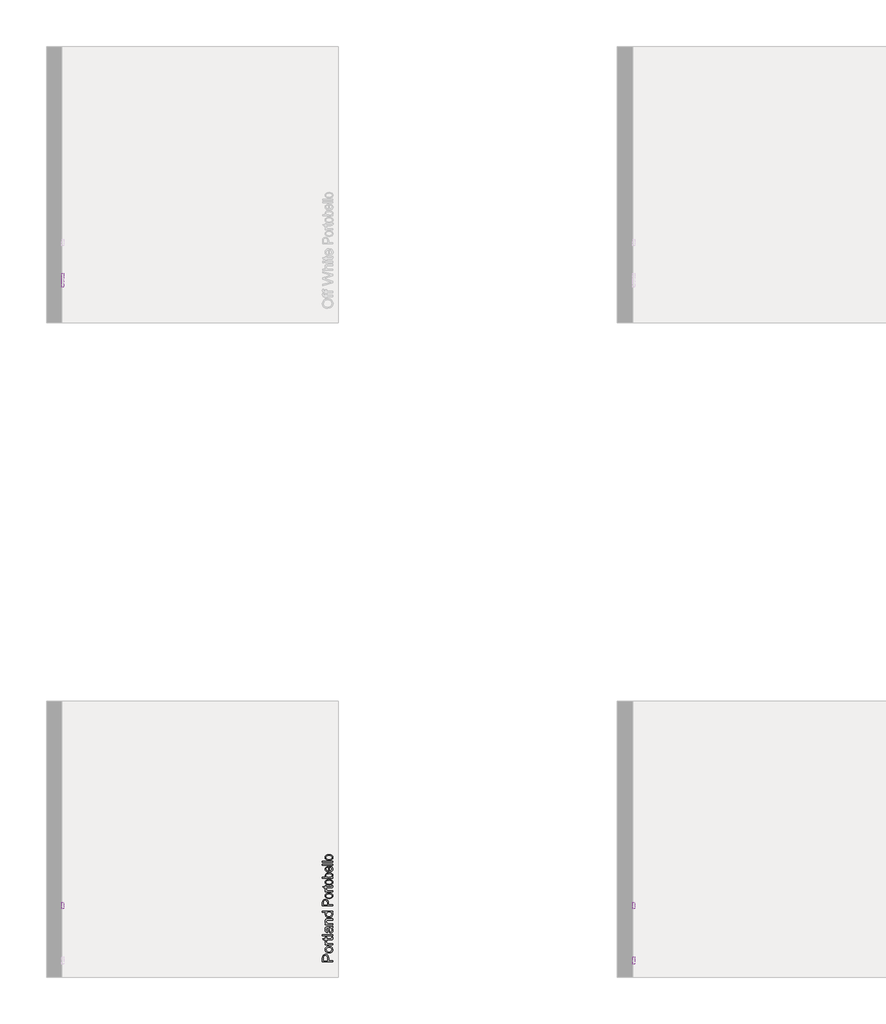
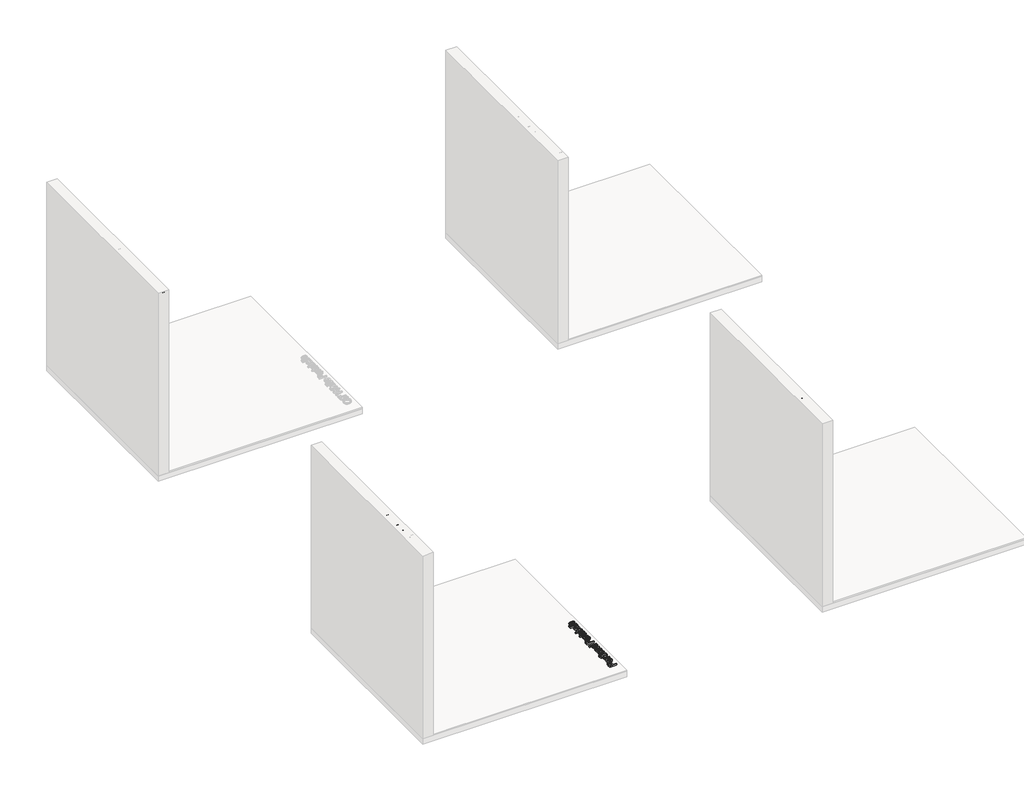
# One storey, part 9 of 14: 6 proxies.
"""IFC4 building model written with IfcOpenShell, lengths in millimetres."""

from ifc_helpers import new_model, si_unit, frame, origin, place, context, project, spatial, polyline, outline, extrude, element, save

model = new_model("IFC4")

# Units and contexts
model_context = context("Model", 3, world=origin())
ifc_project = project(units=[si_unit("LENGTHUNIT", "METRE", prefix="MILLI")], contexts=[model_context])

# Site, building, storey
site = spatial("IfcSite", under=ifc_project)
building = spatial("IfcBuilding", under=site)
storey = spatial("IfcBuildingStorey", under=building, Name="PORTOBELLO - SHOWROOM", Elevation=0.0)

# Proxies
placement = place(None, origin())
element("IfcBuildingElementProxy", 1, Name="10mm Arial", ObjectType="10mm Arial", at=placement, inside=storey, context=model_context, shape_type="SweptSolid", body=[
    extrude(outline(polyline([(186762.0184229, 10125.2075805), (186661.5621127, 10125.2075805), (186661.5621127, 10162.4372384), (186662.5186059, 10177.4468238), (186667.2152327, 10189.6482433), (186676.9273174, 10197.5577062), (186690.6247904, 10200.5498131), (186702.4644592, 10198.5295278), (186712.3298281, 10192.468672), (186718.9884922, 10181.1348408), (186721.2080469, 10163.2956298), (186721.2080469, 10137.7646193), (186762.0184229, 10137.7646193), (186762.0184229, 10125.2075805)]), holes=[polyline([(186708.6510081, 10137.7646193), (186708.6510081, 10164.0313938), (186704.0402204, 10182.5235954), (186698.4913337, 10186.6254796), (186691.0662487, 10187.9927744), (186680.667451, 10184.7676755), (186674.9775428, 10176.2941269), (186674.1191515, 10163.7370882), (186674.1191515, 10137.7646193), (186708.6510081, 10137.7646193)])]), frame((0.0, 0.0, 17.0), z_axis=(0.0, 0.0, 1.0), x_axis=(1.0, 0.0, 0.0)), (0.0, 0.0, 1.0), 20.0),
    extrude(outline(polyline([(186725.1321215, 10213.1068519), (186707.345027, 10215.8230473), (186694.8431706, 10223.9716335), (186688.7179353, 10234.0393374), (186686.6761903, 10246.0936041), (186689.1624594, 10259.2852394), (186696.6212669, 10269.8219928), (186708.4640014, 10276.7289773), (186724.1020519, 10279.0313054), (186746.4447518, 10274.960078), (186759.0876297, 10263.1020151), (186763.5880527, 10246.0936041), (186761.1109806, 10232.7425534), (186753.6797643, 10222.2180627), (186741.5887094, 10215.3846546), (186725.1321215, 10213.1068519)]), holes=[polyline([(186725.107596, 10225.6638907), (186736.472084, 10227.1170246), (186744.5685536, 10231.4764262), (186749.4153989, 10238.0369884), (186751.031014, 10246.0936041), (186749.4062018, 10254.1134316), (186744.5317654, 10260.6617312), (186736.3279969, 10265.0211328), (186724.7151886, 10266.4742667), (186713.6817944, 10265.0119357), (186705.6956894, 10260.624943), (186700.8488441, 10254.0674464), (186699.233229, 10246.0936041), (186700.8427128, 10238.0369884), (186705.671164, 10231.4764262), (186713.7492394, 10227.1170246), (186725.107596, 10225.6638907)])]), frame((0.0, 0.0, 17.0), z_axis=(0.0, 0.0, 1.0), x_axis=(1.0, 0.0, 0.0)), (0.0, 0.0, 1.0), 20.0),
    extrude(outline(polyline([(186762.0184229, 10293.1579741), (186688.2458201, 10293.1579741), (186688.2458201, 10304.145383), (186699.1596526, 10304.145383), (186689.1042114, 10311.9444813), (186686.6761903, 10319.7926305), (186690.551214, 10332.3987202), (186701.808403, 10328.2048655), (186699.233229, 10319.3756976), (186701.7103011, 10312.2755751), (186708.5774317, 10307.7506265), (186723.2436606, 10305.7150128), (186762.0184229, 10305.7150128), (186762.0184229, 10293.1579741)])), frame((0.0, 0.0, 17.0), z_axis=(0.0, 0.0, 1.0), x_axis=(1.0, 0.0, 0.0)), (0.0, 0.0, 1.0), 20.0),
    extrude(outline(polyline([(186751.5460488, 10366.9305768), (186762.3863049, 10368.5002067), (186763.5880527, 10359.1069531), (186761.5033881, 10348.585528), (186756.0342091, 10343.3370782), (186741.7849132, 10341.8164993), (186700.8028589, 10341.8164993), (186700.8028589, 10332.3987202), (186690.551214, 10332.3987202), (186688.2458201, 10332.3987202), (186688.2458201, 10341.8164993), (186670.3177042, 10341.8164993), (186662.9355389, 10354.3735381), (186688.2458201, 10354.3735381), (186688.2458201, 10366.9305768), (186700.8028589, 10366.9305768), (186700.8028589, 10354.3735381), (186741.4170312, 10354.3735381), (186747.8917543, 10355.0357256), (186750.1848854, 10357.181704), (186751.031014, 10361.4613978), (186751.5460488, 10366.9305768)])), frame((0.0, 0.0, 17.0), z_axis=(0.0, 0.0, 1.0), x_axis=(1.0, 0.0, 0.0)), (0.0, 0.0, 1.0), 20.0),
    extrude(outline(polyline([(186762.0184229, 10379.4876156), (186661.5621127, 10379.4876156), (186661.5621127, 10392.0446544), (186762.0184229, 10392.0446544), (186762.0184229, 10379.4876156)])), frame((0.0, 0.0, 17.0), z_axis=(0.0, 0.0, 1.0), x_axis=(1.0, 0.0, 0.0)), (0.0, 0.0, 1.0), 20.0),
    extrude(outline(polyline([(186752.6006438, 10457.9691079), (186761.1109806, 10445.7922139), (186763.5880527, 10432.3399956), (186762.0981307, 10421.8461617), (186757.6283644, 10414.1053113), (186750.8409416, 10409.3320425), (186742.3980498, 10407.7409528), (186732.4652359, 10410.1444485), (186725.2547488, 10416.4597561), (186721.1344705, 10425.2521358), (186719.2460096, 10436.1169174), (186714.9295275, 10457.8955315), (186712.1336243, 10457.9691079), (186702.8629981, 10454.5110171), (186699.233229, 10440.6296032), (186701.6489875, 10427.9254116), (186710.220638, 10421.8676214), (186708.6510081, 10409.3105827), (186696.3882749, 10414.7429735), (186689.2023133, 10425.6813315), (186686.6761903, 10442.248284), (186688.9080077, 10457.4663358), (186694.5120768, 10466.0625118), (186703.0346763, 10469.91301), (186714.0220852, 10470.5261467), (186729.6448073, 10470.5261467), (186751.4602096, 10471.1638088), (186762.0184229, 10473.6654064), (186762.0184229, 10461.1083676), (186752.6006438, 10457.9691079)]), holes=[polyline([(186727.4865663, 10457.9691079), (186731.3370645, 10437.7110727), (186733.3726782, 10426.9076048), (186736.6836162, 10422.0147742), (186741.515133, 10420.2979916), (186748.3086872, 10424.0381252), (186751.031014, 10435.0132714), (186748.0266443, 10447.717463), (186740.7548436, 10455.9089687), (186731.0427589, 10457.8955315), (186727.4865663, 10457.9691079)])]), frame((0.0, 0.0, 17.0), z_axis=(0.0, 0.0, 1.0), x_axis=(1.0, 0.0, 0.0)), (0.0, 0.0, 1.0), 20.0),
    extrude(outline(polyline([(186762.0184229, 10487.792075), (186688.2458201, 10487.792075), (186688.2458201, 10500.3491137), (186698.546516, 10500.3491137), (186689.6437717, 10509.9508338), (186686.6761903, 10523.0596956), (186689.0674232, 10534.9177586), (186695.3459426, 10543.0111624), (186704.5797807, 10546.7758215), (186716.7198865, 10547.4380091), (186762.0184229, 10547.4380091), (186762.0184229, 10534.8809704), (186718.4121437, 10534.8809704), (186707.3021075, 10533.4339678), (186701.4282583, 10528.3204081), (186699.233229, 10519.6997067), (186704.1628478, 10506.0758101), (186711.3058898, 10501.7807878), (186722.8757786, 10500.3491137), (186762.0184229, 10500.3491137), (186762.0184229, 10487.792075)])), frame((0.0, 0.0, 17.0), z_axis=(0.0, 0.0, 1.0), x_axis=(1.0, 0.0, 0.0)), (0.0, 0.0, 1.0), 20.0),
    extrude(outline(polyline([(186762.0184229, 10610.223203), (186750.1726226, 10610.223203), (186760.2341952, 10601.9152012), (186763.5880527, 10590.4311516), (186758.7320104, 10574.882006), (186745.1816902, 10563.894597), (186725.2056979, 10559.9950479), (186705.2174428, 10563.5880287), (186691.4586562, 10574.3547084), (186686.6761903, 10590.3821007), (186690.0974928, 10601.9581208), (186698.9879744, 10610.223203), (186661.5621127, 10610.223203), (186661.5621127, 10622.7802417), (186762.0184229, 10622.7802417), (186762.0184229, 10610.223203)]), holes=[polyline([(186725.156647, 10572.5520867), (186736.5150036, 10573.9684323), (186744.593079, 10578.2174694), (186749.4215302, 10584.3917555), (186751.031014, 10591.5838485), (186749.4951066, 10598.7728759), (186744.8873846, 10604.7908122), (186737.1220089, 10608.8651053), (186726.1131402, 10610.223203), (186714.0772675, 10608.8405798), (186705.7324776, 10604.6927103), (186700.8580412, 10598.5214898), (186699.233229, 10591.0688138), (186700.7936618, 10583.8031443), (186705.4749602, 10577.8495874), (186713.5162475, 10573.8764618), (186725.156647, 10572.5520867)])]), frame((0.0, 0.0, 17.0), z_axis=(0.0, 0.0, 1.0), x_axis=(1.0, 0.0, 0.0)), (0.0, 0.0, 1.0), 20.0),
])
element("IfcBuildingElementProxy", 2, Name="10mm Arial", ObjectType="10mm Arial", at=placement, inside=storey, context=model_context, shape_type="SweptSolid", body=[
    extrude(outline(polyline([(10102.0552811, 2558.2261649), (10102.0552811, 2658.6824751), (10139.2849391, 2658.6824751), (10154.2945245, 2657.7259819), (10166.495944, 2653.0293551), (10174.4054069, 2643.3172704), (10177.3975138, 2629.6197975), (10175.3772285, 2617.7801286), (10169.3163726, 2607.9147598), (10157.9825415, 2601.2560956), (10140.1433304, 2599.0365409), (10114.6123199, 2599.0365409), (10114.6123199, 2558.2261649), (10102.0552811, 2558.2261649)]), holes=[polyline([(10114.6123199, 2611.5935797), (10140.8790944, 2611.5935797), (10159.371296, 2616.2043674), (10163.4731802, 2621.7532541), (10164.840475, 2629.1783391), (10161.6153762, 2639.5771368), (10153.1418275, 2645.267045), (10140.5847888, 2646.1254363), (10114.6123199, 2646.1254363), (10114.6123199, 2611.5935797)])]), frame((189692.8293498, 0.0, 0.0), z_axis=(1.0, 0.0, 0.0), x_axis=(0.0, 1.0, 0.0)), (0.0, 0.0, 1.0), 20.0),
    extrude(outline(polyline([(10189.9545525, 2595.1124663), (10192.6707479, 2612.8995608), (10200.8193341, 2625.4014173), (10210.887038, 2631.5266525), (10222.9413048, 2633.5683975), (10236.13294, 2631.0821284), (10246.6696934, 2623.6233209), (10253.5766779, 2611.7805864), (10255.8790061, 2596.1425359), (10251.8077786, 2573.7998361), (10239.9497157, 2561.1569582), (10222.9413048, 2556.6565351), (10209.590254, 2559.1336072), (10199.0657633, 2566.5648235), (10192.2323552, 2578.6558784), (10189.9545525, 2595.1124663)]), holes=[polyline([(10202.5115913, 2595.1369918), (10203.9647252, 2583.7725038), (10208.3241268, 2575.6760342), (10214.8846891, 2570.829189), (10222.9413048, 2569.2135739), (10230.9611323, 2570.838386), (10237.5094318, 2575.7128224), (10241.8688334, 2583.9165909), (10243.3219673, 2595.5293992), (10241.8596364, 2606.5627934), (10237.4726436, 2614.5488984), (10230.915147, 2619.3957437), (10222.9413048, 2621.0113588), (10214.8846891, 2619.4018751), (10208.3241268, 2614.5734239), (10203.9647252, 2606.4953484), (10202.5115913, 2595.1369918)])]), frame((189692.8293498, 0.0, 0.0), z_axis=(1.0, 0.0, 0.0), x_axis=(0.0, 1.0, 0.0)), (0.0, 0.0, 1.0), 20.0),
    extrude(outline(polyline([(10270.0056747, 2558.2261649), (10270.0056747, 2631.9987677), (10280.9930836, 2631.9987677), (10280.9930836, 2621.0849352), (10288.7921819, 2631.1403764), (10296.6403311, 2633.5683975), (10309.2464208, 2629.6933739), (10305.0525661, 2618.4361848), (10296.2233982, 2621.0113588), (10289.1232757, 2618.5342867), (10284.5983271, 2611.6671561), (10282.5627134, 2597.0009272), (10282.5627134, 2558.2261649), (10270.0056747, 2558.2261649)])), frame((189692.8293498, 0.0, 0.0), z_axis=(1.0, 0.0, 0.0), x_axis=(0.0, 1.0, 0.0)), (0.0, 0.0, 1.0), 20.0),
    extrude(outline(polyline([(10343.7782774, 2568.6985391), (10345.3479073, 2557.8582829), (10335.9546537, 2556.6565351), (10325.4332286, 2558.7411997), (10320.1847788, 2564.2103787), (10318.6641999, 2578.4596747), (10318.6641999, 2619.4417289), (10309.2464208, 2619.4417289), (10309.2464208, 2629.6933739), (10309.2464208, 2631.9987677), (10318.6641999, 2631.9987677), (10318.6641999, 2649.9268836), (10331.2212387, 2657.309049), (10331.2212387, 2631.9987677), (10343.7782774, 2631.9987677), (10343.7782774, 2619.4417289), (10331.2212387, 2619.4417289), (10331.2212387, 2578.8275567), (10331.8834263, 2572.3528336), (10334.0294046, 2570.0597024), (10338.3090984, 2569.2135739), (10343.7782774, 2568.6985391)])), frame((189692.8293498, 0.0, 0.0), z_axis=(1.0, 0.0, 0.0), x_axis=(0.0, 1.0, 0.0)), (0.0, 0.0, 1.0), 20.0),
    extrude(outline(polyline([(189712.8293498, 10368.892355), (189712.8293498, 10356.3353162), (189692.8293498, 10356.3353162), (189692.8293498, 10368.892355), (189712.8293498, 10368.892355)])), frame((0.0, 0.0, 2558.2261649), z_axis=(0.0, 0.0, 1.0), x_axis=(1.0, 0.0, 0.0)), (0.0, 0.0, 1.0), 100.4563101),
    extrude(outline(polyline([(10434.8168085, 2567.643944), (10422.6399145, 2559.1336072), (10409.1876962, 2556.6565351), (10398.6938623, 2558.1464572), (10390.953012, 2562.6162234), (10386.1797431, 2569.4036462), (10384.5886534, 2577.846538), (10386.9921491, 2587.7793519), (10393.3074567, 2594.989839), (10402.0998364, 2599.1101173), (10412.964618, 2600.9985782), (10434.7432321, 2605.3150603), (10434.8168085, 2608.1109635), (10431.3587178, 2617.3815898), (10417.4773038, 2621.0113588), (10404.7731122, 2618.5956003), (10398.7153221, 2610.0239499), (10386.1582833, 2611.5935797), (10391.5906741, 2623.8563129), (10402.5290321, 2631.0422745), (10419.0959846, 2633.5683975), (10434.3140365, 2631.3365801), (10442.9102124, 2625.7325111), (10446.7607106, 2617.2099115), (10447.3738473, 2606.2225026), (10447.3738473, 2590.5997805), (10448.0115094, 2568.7843782), (10450.513107, 2558.2261649), (10437.9560682, 2558.2261649), (10434.8168085, 2567.643944)]), holes=[polyline([(10434.8168085, 2592.7580215), (10414.5587733, 2588.9075233), (10403.7553054, 2586.8719096), (10398.8624749, 2583.5609717), (10397.1456922, 2578.7294548), (10400.8858258, 2571.9359006), (10411.860972, 2569.2135739), (10424.5651636, 2572.2179435), (10432.7566693, 2579.4897443), (10434.7432321, 2589.2018289), (10434.8168085, 2592.7580215)])]), frame((189692.8293498, 0.0, 0.0), z_axis=(1.0, 0.0, 0.0), x_axis=(0.0, 1.0, 0.0)), (0.0, 0.0, 1.0), 20.0),
    extrude(outline(polyline([(10464.6397756, 2558.2261649), (10464.6397756, 2631.9987677), (10477.1968144, 2631.9987677), (10477.1968144, 2621.6980718), (10486.7985344, 2630.6008161), (10499.9073962, 2633.5683975), (10511.7654592, 2631.1771646), (10519.8588631, 2624.8986452), (10523.6235221, 2615.6648071), (10524.2857097, 2603.5247013), (10524.2857097, 2558.2261649), (10511.728671, 2558.2261649), (10511.728671, 2601.8324441), (10510.2816685, 2612.9424804), (10505.1681087, 2618.8163295), (10496.5474073, 2621.0113588), (10482.9235107, 2616.08174), (10478.6284885, 2608.938698), (10477.1968144, 2597.3688092), (10477.1968144, 2558.2261649), (10464.6397756, 2558.2261649)])), frame((189692.8293498, 0.0, 0.0), z_axis=(1.0, 0.0, 0.0), x_axis=(0.0, 1.0, 0.0)), (0.0, 0.0, 1.0), 20.0),
    extrude(outline(polyline([(10587.0709036, 2558.2261649), (10587.0709036, 2570.0719652), (10578.7629019, 2560.0103926), (10567.2788522, 2556.6565351), (10551.7297066, 2561.5125774), (10540.7422977, 2575.0628976), (10536.8427485, 2595.0388899), (10540.4357293, 2615.027145), (10551.2024091, 2628.7859316), (10567.2298013, 2633.5683975), (10578.8058214, 2630.147095), (10587.0709036, 2621.2566134), (10587.0709036, 2658.6824751), (10599.6279424, 2658.6824751), (10599.6279424, 2558.2261649), (10587.0709036, 2558.2261649)]), holes=[polyline([(10549.3997873, 2595.0879409), (10550.816133, 2583.7295843), (10555.06517, 2575.6515088), (10561.2394562, 2570.8230576), (10568.4315492, 2569.2135739), (10575.6205765, 2570.7494812), (10581.6385128, 2575.3572032), (10585.7128059, 2583.122579), (10587.0709036, 2594.1314477), (10585.6882804, 2606.1673203), (10581.5404109, 2614.5121102), (10575.3691905, 2619.3865466), (10567.9165144, 2621.0113588), (10560.650845, 2619.450926), (10554.697288, 2614.7696276), (10550.7241625, 2606.7283403), (10549.3997873, 2595.0879409)])]), frame((189692.8293498, 0.0, 0.0), z_axis=(1.0, 0.0, 0.0), x_axis=(0.0, 1.0, 0.0)), (0.0, 0.0, 1.0), 20.0),
])
element("IfcBuildingElementProxy", 3, Name="10mm Arial", ObjectType="10mm Arial", at=placement, inside=storey, context=model_context, shape_type="SweptSolid", body=[
    extrude(outline(polyline([(16497.3463916, 2607.1299448), (16500.6941178, 2629.343886), (16510.7372962, 2646.1499618), (16526.0718441, 2656.7265691), (16545.2936783, 2660.2521049), (16558.4699851, 2658.596636), (16570.2851285, 2653.630229), (16580.0953151, 2645.702372), (16587.2567512, 2635.1625529), (16591.634547, 2622.519675), (16593.0938122, 2608.2826417), (16591.5579049, 2593.8555362), (16586.9501829, 2581.0348486), (16579.525098, 2570.4766354), (16569.5371018, 2562.8369526), (16557.8231259, 2558.2016395), (16545.2201019, 2556.6565351), (16531.84146, 2558.3641207), (16519.9588716, 2563.4868775), (16510.1732105, 2571.5618873), (16503.0853507, 2582.1262319), (16497.3463916, 2607.1299448)]), holes=[polyline([(16509.9034304, 2607.0073175), (16512.414225, 2591.2926249), (16519.9466088, 2579.318066), (16531.2681772, 2571.7396969), (16545.1465255, 2569.2135739), (16559.2272089, 2571.7642224), (16570.5671714, 2579.4161679), (16578.0443729, 2591.7586088), (16580.5367734, 2608.3807436), (16576.2693423, 2629.1047627), (16563.7981427, 2642.8267611), (16545.3672547, 2647.6950662), (16531.8598541, 2645.3498184), (16520.3758045, 2638.3140753), (16512.5215239, 2625.7968904), (16509.9034304, 2607.0073175)])]), frame((184113.9473279, 0.0, 0.0), z_axis=(1.0, 0.0, 0.0), x_axis=(0.0, 1.0, 0.0)), (0.0, 0.0, 1.0), 20.0),
    extrude(outline(polyline([(16652.7397464, 2558.2261649), (16652.7397464, 2619.4417289), (16641.7523374, 2619.4417289), (16641.7523374, 2631.9987677), (16652.7397464, 2631.9987677), (16652.7397464, 2639.429984), (16654.0641215, 2649.9023581), (16660.4897937, 2657.3826254), (16673.1449344, 2660.2521049), (16684.5983271, 2658.8786788), (16682.7589172, 2647.106455), (16675.5239046, 2647.6950662), (16667.6144417, 2645.6104015), (16665.2967851, 2637.8358287), (16665.2967851, 2631.9987677), (16679.4234537, 2631.9987677), (16679.4234537, 2619.4417289), (16665.2967851, 2619.4417289), (16665.2967851, 2558.2261649), (16652.7397464, 2558.2261649)])), frame((184113.9473279, 0.0, 0.0), z_axis=(1.0, 0.0, 0.0), x_axis=(0.0, 1.0, 0.0)), (0.0, 0.0, 1.0), 20.0),
    extrude(outline(polyline([(16611.9293704, 2558.2261649), (16611.9293704, 2619.4417289), (16600.9419614, 2619.4417289), (16600.9419614, 2631.9987677), (16611.9293704, 2631.9987677), (16611.9293704, 2639.429984), (16613.2537456, 2649.9023581), (16619.6794177, 2657.3826254), (16632.3345584, 2660.2521049), (16643.7879511, 2658.8786788), (16641.9485412, 2647.106455), (16634.7135286, 2647.6950662), (16626.8040657, 2645.6104015), (16624.4864091, 2637.8358287), (16624.4864091, 2631.9987677), (16638.6130778, 2631.9987677), (16638.6130778, 2619.4417289), (16624.4864091, 2619.4417289), (16624.4864091, 2558.2261649), (16611.9293704, 2558.2261649)])), frame((184113.9473279, 0.0, 0.0), z_axis=(1.0, 0.0, 0.0), x_axis=(0.0, 1.0, 0.0)), (0.0, 0.0, 1.0), 20.0),
    extrude(outline(polyline([(16749.1984055, 2558.2261649), (16721.8034596, 2658.6824751), (16734.7529058, 2658.6824751), (16750.645408, 2592.6599197), (16755.5505013, 2572.2792572), (16760.7989511, 2590.3054749), (16780.7136298, 2658.6824751), (16799.3775096, 2658.6824751), (16813.8475348, 2609.1165076), (16824.6142145, 2572.2792572), (16829.372155, 2592.0713085), (16845.41181, 2658.6824751), (16858.3612562, 2658.6824751), (16830.9417848, 2558.2261649), (16817.5263547, 2558.2261649), (16793.4423468, 2635.7266386), (16790.0823579, 2646.5423692), (16786.3054361, 2633.5193466), (16764.3551437, 2558.2261649), (16749.1984055, 2558.2261649)])), frame((184113.9473279, 0.0, 0.0), z_axis=(1.0, 0.0, 0.0), x_axis=(0.0, 1.0, 0.0)), (0.0, 0.0, 1.0), 20.0),
    extrude(outline(polyline([(16869.3486651, 2558.2261649), (16869.3486651, 2658.6824751), (16881.9057039, 2658.6824751), (16881.9057039, 2621.7471228), (16891.6974963, 2630.6130789), (16903.7578944, 2633.5683975), (16917.8600376, 2630.3432987), (16926.4194253, 2621.4282917), (16928.9945993, 2604.9226529), (16928.9945993, 2558.2261649), (16916.4375605, 2558.2261649), (16916.4375605, 2603.6228031), (16912.4399095, 2616.866555), (16901.109144, 2621.0113588), (16890.8207109, 2618.2154556), (16883.9535803, 2610.6370865), (16881.9057039, 2597.4178602), (16881.9057039, 2558.2261649), (16869.3486651, 2558.2261649)])), frame((184113.9473279, 0.0, 0.0), z_axis=(1.0, 0.0, 0.0), x_axis=(0.0, 1.0, 0.0)), (0.0, 0.0, 1.0), 20.0),
    extrude(outline(polyline([(184133.9473279, 16958.8175664), (184133.9473279, 16946.2605276), (184113.9473279, 16946.2605276), (184113.9473279, 16958.8175664), (184133.9473279, 16958.8175664)])), frame((0.0, 0.0, 2646.1254363), z_axis=(0.0, 0.0, 1.0), x_axis=(1.0, 0.0, 0.0)), (0.0, 0.0, 1.0), 12.5570388),
    extrude(outline(polyline([(184133.9473279, 16958.8175664), (184133.9473279, 16946.2605276), (184113.9473279, 16946.2605276), (184113.9473279, 16958.8175664), (184133.9473279, 16958.8175664)])), frame((0.0, 0.0, 2558.2261649), z_axis=(0.0, 0.0, 1.0), x_axis=(1.0, 0.0, 0.0)), (0.0, 0.0, 1.0), 73.7726028),
    extrude(outline(polyline([(17004.3368319, 2568.6985391), (17005.9064617, 2557.8582829), (16996.5132081, 2556.6565351), (16985.9917831, 2558.7411997), (16980.7433333, 2564.2103787), (16979.2227544, 2578.4596747), (16979.2227544, 2619.4417289), (16969.8049753, 2619.4417289), (16969.8049753, 2631.9987677), (16979.2227544, 2631.9987677), (16979.2227544, 2649.9268836), (16991.7797931, 2657.309049), (16991.7797931, 2631.9987677), (17004.3368319, 2631.9987677), (17004.3368319, 2619.4417289), (16991.7797931, 2619.4417289), (16991.7797931, 2578.8275567), (16992.4419807, 2572.3528336), (16994.587959, 2570.0597024), (16998.8676529, 2569.2135739), (17004.3368319, 2568.6985391)])), frame((184113.9473279, 0.0, 0.0), z_axis=(1.0, 0.0, 0.0), x_axis=(0.0, 1.0, 0.0)), (0.0, 0.0, 1.0), 20.0),
    extrude(outline(polyline([(17068.5445028, 2580.2009828), (17080.8562869, 2578.6313529), (17076.4202432, 2569.3545953), (17069.3415804, 2562.4200197), (17059.7797142, 2558.0974062), (17047.8940601, 2556.6565351), (17033.1603862, 2559.1428042), (17021.8234894, 2566.6016117), (17014.5946082, 2578.5485795), (17012.1849811, 2594.4993297), (17014.6191337, 2610.9865744), (17021.9215913, 2623.3167526), (17033.1052039, 2631.0054863), (17047.1828216, 2633.5683975), (17060.8220466, 2631.0116177), (17071.7205507, 2623.3412781), (17078.8666584, 2611.0356253), (17081.2486943, 2594.5729061), (17081.1751179, 2591.1883917), (17024.7420199, 2591.1883917), (17026.9155893, 2581.7890067), (17031.9647697, 2574.8789566), (17039.2518989, 2570.6299195), (17048.1393148, 2569.2135739), (17060.4510989, 2571.8377988), (17068.5445028, 2580.2009828)]), holes=[polyline([(17024.7420199, 2603.7454305), (17068.6916556, 2603.7454305), (17063.663935, 2615.1252469), (17056.3430833, 2619.5398308), (17047.1337707, 2621.0113588), (17031.6704641, 2616.314732), (17026.8052247, 2610.8240932), (17024.7420199, 2603.7454305)])]), frame((184113.9473279, 0.0, 0.0), z_axis=(1.0, 0.0, 0.0), x_axis=(0.0, 1.0, 0.0)), (0.0, 0.0, 1.0), 20.0),
])
element("IfcBuildingElementProxy", 4, Name="10mm Arial Narrow", ObjectType="10mm Arial Narrow", at=placement, inside=storey, context=model_context, shape_type="SweptSolid", body=[
    extrude(outline(polyline([(186762.0184229, 10672.5214802), (186661.2998191, 10672.5214802), (186661.2998191, 10703.8183648), (186663.1781399, 10720.1140664), (186672.658583, 10731.5870525), (186689.6776919, 10735.8767309), (186701.7535174, 10734.0904225), (186711.3799112, 10728.7314973), (186717.6811696, 10718.9877085), (186719.7815891, 10704.0468093), (186719.7815891, 10682.2684418), (186762.0184229, 10682.2684418), (186762.0184229, 10672.5214802)]), holes=[polyline([(186708.4101338, 10682.2684418), (186708.4101338, 10705.2397967), (186703.8793196, 10721.1039921), (186690.2107288, 10726.1297692), (186680.0449524, 10723.6549548), (186674.2450026, 10717.6773259), (186672.6712744, 10705.0113523), (186672.6712744, 10682.2684418), (186708.4101338, 10682.2684418)])]), frame((0.0, 0.0, 17.0), z_axis=(0.0, 0.0, 1.0), x_axis=(1.0, 0.0, 0.0)), (0.0, 0.0, 1.0), 20.0),
    extrude(outline(polyline([(186725.4673167, 10743.9991989), (186708.8765411, 10745.9536678), (186696.9244563, 10751.8170744), (186689.6999017, 10760.6756411), (186687.2917169, 10771.6155903), (186689.6999017, 10782.4286259), (186696.9244563, 10791.3125753), (186708.6861708, 10797.2521301), (186724.7058353, 10799.2319816), (186741.8677219, 10797.2870313), (186754.010177, 10791.4521802), (186761.2347316, 10782.603132), (186763.6429165, 10771.6155903), (186761.228386, 10760.7549621), (186753.9847943, 10751.8805312), (186742.0263638, 10745.969532), (186725.4673167, 10743.9991989)]), holes=[polyline([(186725.441934, 10753.7461606), (186737.9936854, 10755.0501975), (186746.8649434, 10758.962308), (186752.138202, 10764.8035048), (186753.8959548, 10771.8948001), (186752.1223378, 10778.6148733), (186746.8014867, 10784.3069466), (186737.9143644, 10788.1905017), (186725.441934, 10789.48502), (186712.9282566, 10788.1809831), (186704.0696899, 10784.2688725), (186698.7964314, 10778.4276758), (186697.0386785, 10771.3363805), (186698.8059499, 10764.5687147), (186704.107764, 10758.8861599), (186712.9758492, 10755.0311604), (186725.441934, 10753.7461606)])]), frame((0.0, 0.0, 17.0), z_axis=(0.0, 0.0, 1.0), x_axis=(1.0, 0.0, 0.0)), (0.0, 0.0, 1.0), 20.0),
    extrude(outline(polyline([(186753.8959548, 10870.7097004), (186763.6429165, 10872.3341941), (186763.6429165, 10864.9732074), (186761.52346, 10856.6984431), (186755.7235102, 10852.3833819), (186741.077685, 10851.2157771), (186698.6631721, 10851.2157771), (186698.6631721, 10843.0933091), (186695.4141849, 10843.0933091), (186700.2876657, 10841.4688155), (186698.6631721, 10833.9047671), (186700.9856903, 10827.8256074), (186707.4709734, 10823.9547438), (186722.87828, 10821.9748922), (186762.0184229, 10821.9748922), (186762.0184229, 10812.2279305), (186688.9162105, 10812.2279305), (186688.9162105, 10821.9748922), (186698.6124067, 10821.9748922), (186689.5253956, 10828.2190395), (186687.2917169, 10834.6154831), (186688.9162105, 10843.0933091), (186688.9162105, 10851.2157771), (186672.6712744, 10851.2157771), (186664.5488063, 10860.9627388), (186688.9162105, 10860.9627388), (186688.9162105, 10870.7097004), (186698.6631721, 10870.7097004), (186698.6631721, 10860.9627388), (186743.3113637, 10860.9627388), (186751.3069182, 10861.825751), (186753.8959548, 10866.4454047), (186753.8959548, 10870.7097004)])), frame((0.0, 0.0, 17.0), z_axis=(0.0, 0.0, 1.0), x_axis=(1.0, 0.0, 0.0)), (0.0, 0.0, 1.0), 20.0),
    extrude(outline(polyline([(186725.4673167, 10877.2076749), (186708.8765411, 10879.1621438), (186696.9244563, 10885.0255504), (186689.6999017, 10893.8841171), (186687.2917169, 10904.8240662), (186689.6999017, 10915.6371018), (186696.9244563, 10924.5210512), (186708.6861708, 10930.460606), (186724.7058353, 10932.4404576), (186741.8677219, 10930.4955072), (186754.010177, 10924.6606562), (186761.2347316, 10915.811608), (186763.6429165, 10904.8240662), (186761.228386, 10893.9634381), (186753.9847943, 10885.0890072), (186742.0263638, 10879.1780079), (186725.4673167, 10877.2076749)]), holes=[polyline([(186725.441934, 10886.9546365), (186737.9936854, 10888.2586734), (186746.8649434, 10892.170784), (186752.138202, 10898.0119807), (186753.8959548, 10905.1032761), (186752.1223378, 10911.8233492), (186746.8014867, 10917.5154225), (186737.9143644, 10921.3989776), (186725.441934, 10922.6934959), (186712.9282566, 10921.3894591), (186704.0696899, 10917.4773485), (186698.7964314, 10911.6361517), (186697.0386785, 10904.5448564), (186698.8059499, 10897.7771906), (186704.107764, 10892.0946358), (186712.9758492, 10888.2396364), (186725.441934, 10886.9546365)])]), frame((0.0, 0.0, 17.0), z_axis=(0.0, 0.0, 1.0), x_axis=(1.0, 0.0, 0.0)), (0.0, 0.0, 1.0), 20.0),
    extrude(outline(polyline([(186762.0184229, 10955.1833681), (186762.0184229, 10945.4364065), (186661.2998191, 10945.4364065), (186661.2998191, 10955.1833681), (186696.7087033, 10955.1833681), (186689.6269264, 10962.5824288), (186687.2917169, 10971.7836622), (186691.4925558, 10984.6653888), (186704.2219862, 10993.9427703), (186724.908897, 10997.4202019), (186741.3632405, 10995.4879429), (186753.5659796, 10989.6911659), (186761.1236823, 10981.3180436), (186763.6429165, 10971.6567486), (186761.0284971, 10962.3159104), (186753.261387, 10955.1833681), (186762.0184229, 10955.1833681)]), holes=[polyline([(186724.908897, 10955.1833681), (186742.1564502, 10957.2647505), (186750.8881034, 10963.1535399), (186753.8959548, 10971.6059832), (186752.1064736, 10977.5487108), (186746.7380299, 10982.7870681), (186725.3150204, 10987.6732403), (186703.8793196, 10982.9647471), (186698.7488388, 10977.7200441), (186697.0386785, 10971.4029215), (186698.8281598, 10965.4252927), (186704.1966035, 10960.1329971), (186724.908897, 10955.1833681)])]), frame((0.0, 0.0, 17.0), z_axis=(0.0, 0.0, 1.0), x_axis=(1.0, 0.0, 0.0)), (0.0, 0.0, 1.0), 20.0),
    extrude(outline(polyline([(186739.2755124, 11049.4039974), (186740.900006, 11059.1509591), (186750.7865725, 11055.4514287), (186757.9064234, 11049.6324418), (186762.2087932, 11041.9287886), (186763.6429165, 11032.5752589), (186761.228386, 11020.9817049), (186753.9847943, 11011.8375827), (186742.1786601, 11005.898028), (186726.0765018, 11003.9181764), (186709.4095781, 11005.9075465), (186697.2290489, 11011.8756568), (186689.7760499, 11020.8896926), (186687.2917169, 11032.0168393), (186689.6903832, 11042.6997884), (186696.8863823, 11051.4473058), (186708.6258868, 11057.2821569), (186724.6550699, 11059.2271072), (186727.9040571, 11059.1509591), (186727.9040571, 11013.665138), (186747.347215, 11019.6681496), (186752.2587699, 11025.5981858), (186753.8959548, 11032.7021725), (186750.2408442, 11042.8806403), (186739.2755124, 11049.4039974)]), holes=[polyline([(186718.1570954, 11014.3250886), (186718.1570954, 11049.4039974), (186703.8920109, 11045.1397017), (186698.7520116, 11039.3143691), (186697.0386785, 11032.0929874), (186702.7497889, 11019.8839026), (186718.1570954, 11014.3250886)])]), frame((0.0, 0.0, 17.0), z_axis=(0.0, 0.0, 1.0), x_axis=(1.0, 0.0, 0.0)), (0.0, 0.0, 1.0), 20.0),
    extrude(outline(polyline([(186762.0184229, 11072.1469079), (186661.2998191, 11072.1469079), (186661.2998191, 11081.8938696), (186762.0184229, 11081.8938696), (186762.0184229, 11072.1469079)])), frame((0.0, 0.0, 17.0), z_axis=(0.0, 0.0, 1.0), x_axis=(1.0, 0.0, 0.0)), (0.0, 0.0, 1.0), 20.0),
    extrude(outline(polyline([(186762.0184229, 11098.1388057), (186661.2998191, 11098.1388057), (186661.2998191, 11107.8857673), (186762.0184229, 11107.8857673), (186762.0184229, 11098.1388057)])), frame((0.0, 0.0, 17.0), z_axis=(0.0, 0.0, 1.0), x_axis=(1.0, 0.0, 0.0)), (0.0, 0.0, 1.0), 20.0),
    extrude(outline(polyline([(186725.4673167, 11119.2572226), (186708.8765411, 11121.2116915), (186696.9244563, 11127.0750981), (186689.6999017, 11135.9336648), (186687.2917169, 11146.873614), (186689.6999017, 11157.6866495), (186696.9244563, 11166.570599), (186708.6861708, 11172.5101537), (186724.7058353, 11174.4900053), (186741.8677219, 11172.545055), (186754.010177, 11166.7102039), (186761.2347316, 11157.8611557), (186763.6429165, 11146.873614), (186761.228386, 11136.0129858), (186753.9847943, 11127.1385549), (186742.0263638, 11121.2275557), (186725.4673167, 11119.2572226)]), holes=[polyline([(186725.441934, 11129.0041843), (186737.9936854, 11130.3082211), (186746.8649434, 11134.2203317), (186752.138202, 11140.0615285), (186753.8959548, 11147.1528238), (186752.1223378, 11153.872897), (186746.8014867, 11159.5649703), (186737.9143644, 11163.4485253), (186725.441934, 11164.7430437), (186712.9282566, 11163.4390068), (186704.0696899, 11159.5268962), (186698.7964314, 11153.6856995), (186697.0386785, 11146.5944041), (186698.8059499, 11139.8267384), (186704.107764, 11134.1441836), (186712.9758492, 11130.2891841), (186725.441934, 11129.0041843)])]), frame((0.0, 0.0, 17.0), z_axis=(0.0, 0.0, 1.0), x_axis=(1.0, 0.0, 0.0)), (0.0, 0.0, 1.0), 20.0),
])
element("IfcBuildingElementProxy", 5, Name="10mm Arial Narrow", ObjectType="10mm Arial Narrow", at=placement, inside=storey, context=model_context, shape_type="SweptSolid", body=[
    extrude(outline(polyline([(10644.1903403, 2558.2261649), (10644.1903403, 2658.9447687), (10675.4872249, 2658.9447687), (10691.7829265, 2657.066448), (10703.2559126, 2647.5860048), (10707.545591, 2630.566896), (10705.7592826, 2618.4910704), (10700.4003574, 2608.8646767), (10690.6565686, 2602.5634182), (10675.7156694, 2600.4629988), (10653.9373019, 2600.4629988), (10653.9373019, 2558.2261649), (10644.1903403, 2558.2261649)]), holes=[polyline([(10653.9373019, 2611.834454), (10676.9086569, 2611.834454), (10692.7728523, 2616.3652682), (10697.7986294, 2630.033859), (10695.3238149, 2640.1996354), (10689.346186, 2645.9995852), (10676.6802124, 2647.5733134), (10653.9373019, 2647.5733134), (10653.9373019, 2611.834454)])]), frame((189692.8293498, 0.0, 0.0), z_axis=(1.0, 0.0, 0.0), x_axis=(0.0, 1.0, 0.0)), (0.0, 0.0, 1.0), 20.0),
    extrude(outline(polyline([(10715.6680591, 2594.7772711), (10717.6225279, 2611.3680467), (10723.4859345, 2623.3201315), (10732.3445013, 2630.5446861), (10743.2844504, 2632.9528709), (10754.097486, 2630.5446861), (10762.9814354, 2623.3201315), (10768.9209902, 2611.558417), (10770.9008418, 2595.5387525), (10768.9558914, 2578.3768659), (10763.1210403, 2566.2344108), (10754.2719921, 2559.0098562), (10743.2844504, 2556.6016713), (10732.4238222, 2559.0162019), (10723.5493913, 2566.2597935), (10717.6383921, 2578.218224), (10715.6680591, 2594.7772711)]), holes=[polyline([(10725.4150207, 2594.8026538), (10726.7190576, 2582.2509024), (10730.6311682, 2573.3796444), (10736.4723649, 2568.1063858), (10743.5636602, 2566.348633), (10750.2837334, 2568.12225), (10755.9758067, 2573.4431012), (10759.8593618, 2582.3302234), (10761.1538801, 2594.8026538), (10759.8498432, 2607.3163312), (10755.9377327, 2616.1748979), (10750.0965359, 2621.4481564), (10743.0052406, 2623.2059093), (10736.2375748, 2621.4386379), (10730.55502, 2616.1368238), (10726.7000205, 2607.2687386), (10725.4150207, 2594.8026538)])]), frame((189692.8293498, 0.0, 0.0), z_axis=(1.0, 0.0, 0.0), x_axis=(0.0, 1.0, 0.0)), (0.0, 0.0, 1.0), 20.0),
    extrude(outline(polyline([(10842.3785606, 2566.348633), (10844.0030542, 2556.6016713), (10836.6420675, 2556.6016713), (10828.3673032, 2558.7211278), (10824.052242, 2564.5210777), (10822.8846372, 2579.1669029), (10822.8846372, 2621.5814157), (10814.7621692, 2621.5814157), (10814.7621692, 2624.8304029), (10813.1376756, 2619.9569221), (10805.5736272, 2621.5814157), (10799.4944675, 2619.2588975), (10795.6236039, 2612.7736144), (10793.6437523, 2597.3663078), (10793.6437523, 2558.2261649), (10783.8967906, 2558.2261649), (10783.8967906, 2631.3283773), (10793.6437523, 2631.3283773), (10793.6437523, 2621.6321811), (10799.8878996, 2630.7191922), (10806.2843432, 2632.9528709), (10814.7621692, 2631.3283773), (10822.8846372, 2631.3283773), (10822.8846372, 2647.5733134), (10832.6315989, 2655.6957815), (10832.6315989, 2631.3283773), (10842.3785606, 2631.3283773), (10842.3785606, 2621.5814157), (10832.6315989, 2621.5814157), (10832.6315989, 2576.9332242), (10833.4946111, 2568.9376697), (10838.1142648, 2566.348633), (10842.3785606, 2566.348633)])), frame((189692.8293498, 0.0, 0.0), z_axis=(1.0, 0.0, 0.0), x_axis=(0.0, 1.0, 0.0)), (0.0, 0.0, 1.0), 20.0),
    extrude(outline(polyline([(10848.876535, 2594.7772711), (10850.8310039, 2611.3680467), (10856.6944105, 2623.3201315), (10865.5529772, 2630.5446861), (10876.4929263, 2632.9528709), (10887.3059619, 2630.5446861), (10896.1899113, 2623.3201315), (10902.1294661, 2611.558417), (10904.1093177, 2595.5387525), (10902.1643673, 2578.3768659), (10896.3295163, 2566.2344108), (10887.4804681, 2559.0098562), (10876.4929263, 2556.6016713), (10865.6322982, 2559.0162019), (10856.7578673, 2566.2597935), (10850.8468681, 2578.218224), (10848.876535, 2594.7772711)]), holes=[polyline([(10858.6234966, 2594.8026538), (10859.9275335, 2582.2509024), (10863.8396441, 2573.3796444), (10869.6808408, 2568.1063858), (10876.7721362, 2566.348633), (10883.4922093, 2568.12225), (10889.1842827, 2573.4431012), (10893.0678377, 2582.3302234), (10894.362356, 2594.8026538), (10893.0583192, 2607.3163312), (10889.1462086, 2616.1748979), (10883.3050118, 2621.4481564), (10876.2137165, 2623.2059093), (10869.4460507, 2621.4386379), (10863.7634959, 2616.1368238), (10859.9084965, 2607.2687386), (10858.6234966, 2594.8026538)])]), frame((189692.8293498, 0.0, 0.0), z_axis=(1.0, 0.0, 0.0), x_axis=(0.0, 1.0, 0.0)), (0.0, 0.0, 1.0), 20.0),
    extrude(outline(polyline([(10926.8522282, 2558.2261649), (10917.1052666, 2558.2261649), (10917.1052666, 2658.9447687), (10926.8522282, 2658.9447687), (10926.8522282, 2623.5358846), (10934.2512889, 2630.6176614), (10943.4525223, 2632.9528709), (10956.3342489, 2628.752032), (10965.6116304, 2616.0226016), (10969.089062, 2595.3356908), (10967.156803, 2578.8813473), (10961.360026, 2566.6786082), (10952.9869037, 2559.1209056), (10943.3256087, 2556.6016713), (10933.9847705, 2559.2160907), (10926.8522282, 2566.9832008), (10926.8522282, 2558.2261649)]), holes=[polyline([(10926.8522282, 2595.3356908), (10928.9336107, 2578.0881376), (10934.8224, 2569.3564844), (10943.2748433, 2566.348633), (10949.2175709, 2568.1381142), (10954.4559282, 2573.5065579), (10959.3421004, 2594.9295674), (10954.6336072, 2616.3652682), (10949.3889042, 2621.495749), (10943.0717816, 2623.2059093), (10937.0941528, 2621.4164281), (10931.8018572, 2616.0479843), (10926.8522282, 2595.3356908)])]), frame((189692.8293498, 0.0, 0.0), z_axis=(1.0, 0.0, 0.0), x_axis=(0.0, 1.0, 0.0)), (0.0, 0.0, 1.0), 20.0),
    extrude(outline(polyline([(11021.0728575, 2580.9690755), (11030.8198192, 2579.3445819), (11027.1202888, 2569.4580153), (11021.3013019, 2562.3381644), (11013.5976487, 2558.0357946), (11004.2441191, 2556.6016713), (10992.6505651, 2559.0162019), (10983.5064428, 2566.2597935), (10977.5668881, 2578.0659277), (10975.5870365, 2594.168086), (10977.5764066, 2610.8350097), (10983.5445169, 2623.0155389), (10992.5585527, 2630.4685379), (11003.6856994, 2632.9528709), (11014.3686486, 2630.5542046), (11023.1161659, 2623.3582056), (11028.951017, 2611.618701), (11030.8959673, 2595.5895179), (11030.8198192, 2592.3405307), (10985.3339981, 2592.3405307), (10991.3370097, 2572.8973728), (10997.2670459, 2567.9858179), (11004.3710326, 2566.348633), (11014.5495004, 2570.0037436), (11021.0728575, 2580.9690755)]), holes=[polyline([(10985.9939487, 2602.0874924), (11021.0728575, 2602.0874924), (11016.8085618, 2616.3525769), (11010.9832293, 2621.4925762), (11003.7618475, 2623.2059093), (10991.5527627, 2617.4947989), (10985.9939487, 2602.0874924)])]), frame((189692.8293498, 0.0, 0.0), z_axis=(1.0, 0.0, 0.0), x_axis=(0.0, 1.0, 0.0)), (0.0, 0.0, 1.0), 20.0),
    extrude(outline(polyline([(189712.8293498, 11053.5627297), (189712.8293498, 11043.8157681), (189692.8293498, 11043.8157681), (189692.8293498, 11053.5627297), (189712.8293498, 11053.5627297)])), frame((0.0, 0.0, 2558.2261649), z_axis=(0.0, 0.0, 1.0), x_axis=(1.0, 0.0, 0.0)), (0.0, 0.0, 1.0), 100.7186038),
    extrude(outline(polyline([(189712.8293498, 11079.5546275), (189712.8293498, 11069.8076658), (189692.8293498, 11069.8076658), (189692.8293498, 11079.5546275), (189712.8293498, 11079.5546275)])), frame((0.0, 0.0, 2558.2261649), z_axis=(0.0, 0.0, 1.0), x_axis=(1.0, 0.0, 0.0)), (0.0, 0.0, 1.0), 100.7186038),
    extrude(outline(polyline([(11090.9260827, 2594.7772711), (11092.8805516, 2611.3680467), (11098.7439582, 2623.3201315), (11107.6025249, 2630.5446861), (11118.5424741, 2632.9528709), (11129.3555097, 2630.5446861), (11138.2394591, 2623.3201315), (11144.1790138, 2611.558417), (11146.1588654, 2595.5387525), (11144.2139151, 2578.3768659), (11138.379064, 2566.2344108), (11129.5300158, 2559.0098562), (11118.5424741, 2556.6016713), (11107.6818459, 2559.0162019), (11098.807415, 2566.2597935), (11092.8964158, 2578.218224), (11090.9260827, 2594.7772711)]), holes=[polyline([(11100.6730444, 2594.8026538), (11101.9770812, 2582.2509024), (11105.8891918, 2573.3796444), (11111.7303886, 2568.1063858), (11118.8216839, 2566.348633), (11125.5417571, 2568.12225), (11131.2338304, 2573.4431012), (11135.1173854, 2582.3302234), (11136.4119038, 2594.8026538), (11135.1078669, 2607.3163312), (11131.1957563, 2616.1748979), (11125.3545596, 2621.4481564), (11118.2632642, 2623.2059093), (11111.4955985, 2621.4386379), (11105.8130437, 2616.1368238), (11101.9580442, 2607.2687386), (11100.6730444, 2594.8026538)])]), frame((189692.8293498, 0.0, 0.0), z_axis=(1.0, 0.0, 0.0), x_axis=(0.0, 1.0, 0.0)), (0.0, 0.0, 1.0), 20.0),
])
element("IfcBuildingElementProxy", 6, Name="10mm Arial Narrow", ObjectType="10mm Arial Narrow", at=placement, inside=storey, context=model_context, shape_type="SweptSolid", body=[
    extrude(outline(polyline([(10644.1903403, 2558.2261649), (10644.1903403, 2658.9447687), (10675.4872249, 2658.9447687), (10691.7829265, 2657.066448), (10703.2559126, 2647.5860048), (10707.545591, 2630.566896), (10705.7592826, 2618.4910704), (10700.4003574, 2608.8646767), (10690.6565686, 2602.5634182), (10675.7156694, 2600.4629988), (10653.9373019, 2600.4629988), (10653.9373019, 2558.2261649), (10644.1903403, 2558.2261649)]), holes=[polyline([(10653.9373019, 2611.834454), (10676.9086569, 2611.834454), (10692.7728523, 2616.3652682), (10697.7986294, 2630.033859), (10695.3238149, 2640.1996354), (10689.346186, 2645.9995852), (10676.6802124, 2647.5733134), (10653.9373019, 2647.5733134), (10653.9373019, 2611.834454)])]), frame((184113.9473279, 0.0, 0.0), z_axis=(1.0, 0.0, 0.0), x_axis=(0.0, 1.0, 0.0)), (0.0, 0.0, 1.0), 20.0),
    extrude(outline(polyline([(10715.6680591, 2594.7772711), (10717.6225279, 2611.3680467), (10723.4859345, 2623.3201315), (10732.3445013, 2630.5446861), (10743.2844504, 2632.9528709), (10754.097486, 2630.5446861), (10762.9814354, 2623.3201315), (10768.9209902, 2611.558417), (10770.9008418, 2595.5387525), (10768.9558914, 2578.3768659), (10763.1210403, 2566.2344108), (10754.2719921, 2559.0098562), (10743.2844504, 2556.6016713), (10732.4238222, 2559.0162019), (10723.5493913, 2566.2597935), (10717.6383921, 2578.218224), (10715.6680591, 2594.7772711)]), holes=[polyline([(10725.4150207, 2594.8026538), (10726.7190576, 2582.2509024), (10730.6311682, 2573.3796444), (10736.4723649, 2568.1063858), (10743.5636602, 2566.348633), (10750.2837334, 2568.12225), (10755.9758067, 2573.4431012), (10759.8593618, 2582.3302234), (10761.1538801, 2594.8026538), (10759.8498432, 2607.3163312), (10755.9377327, 2616.1748979), (10750.0965359, 2621.4481564), (10743.0052406, 2623.2059093), (10736.2375748, 2621.4386379), (10730.55502, 2616.1368238), (10726.7000205, 2607.2687386), (10725.4150207, 2594.8026538)])]), frame((184113.9473279, 0.0, 0.0), z_axis=(1.0, 0.0, 0.0), x_axis=(0.0, 1.0, 0.0)), (0.0, 0.0, 1.0), 20.0),
    extrude(outline(polyline([(10842.3785606, 2566.348633), (10844.0030542, 2556.6016713), (10836.6420675, 2556.6016713), (10828.3673032, 2558.7211278), (10824.052242, 2564.5210777), (10822.8846372, 2579.1669029), (10822.8846372, 2621.5814157), (10814.7621692, 2621.5814157), (10814.7621692, 2624.8304029), (10813.1376756, 2619.9569221), (10805.5736272, 2621.5814157), (10799.4944675, 2619.2588975), (10795.6236039, 2612.7736144), (10793.6437523, 2597.3663078), (10793.6437523, 2558.2261649), (10783.8967906, 2558.2261649), (10783.8967906, 2631.3283773), (10793.6437523, 2631.3283773), (10793.6437523, 2621.6321811), (10799.8878996, 2630.7191922), (10806.2843432, 2632.9528709), (10814.7621692, 2631.3283773), (10822.8846372, 2631.3283773), (10822.8846372, 2647.5733134), (10832.6315989, 2655.6957815), (10832.6315989, 2631.3283773), (10842.3785606, 2631.3283773), (10842.3785606, 2621.5814157), (10832.6315989, 2621.5814157), (10832.6315989, 2576.9332242), (10833.4946111, 2568.9376697), (10838.1142648, 2566.348633), (10842.3785606, 2566.348633)])), frame((184113.9473279, 0.0, 0.0), z_axis=(1.0, 0.0, 0.0), x_axis=(0.0, 1.0, 0.0)), (0.0, 0.0, 1.0), 20.0),
    extrude(outline(polyline([(10848.876535, 2594.7772711), (10850.8310039, 2611.3680467), (10856.6944105, 2623.3201315), (10865.5529772, 2630.5446861), (10876.4929263, 2632.9528709), (10887.3059619, 2630.5446861), (10896.1899113, 2623.3201315), (10902.1294661, 2611.558417), (10904.1093177, 2595.5387525), (10902.1643673, 2578.3768659), (10896.3295163, 2566.2344108), (10887.4804681, 2559.0098562), (10876.4929263, 2556.6016713), (10865.6322982, 2559.0162019), (10856.7578673, 2566.2597935), (10850.8468681, 2578.218224), (10848.876535, 2594.7772711)]), holes=[polyline([(10858.6234966, 2594.8026538), (10859.9275335, 2582.2509024), (10863.8396441, 2573.3796444), (10869.6808408, 2568.1063858), (10876.7721362, 2566.348633), (10883.4922093, 2568.12225), (10889.1842827, 2573.4431012), (10893.0678377, 2582.3302234), (10894.362356, 2594.8026538), (10893.0583192, 2607.3163312), (10889.1462086, 2616.1748979), (10883.3050118, 2621.4481564), (10876.2137165, 2623.2059093), (10869.4460507, 2621.4386379), (10863.7634959, 2616.1368238), (10859.9084965, 2607.2687386), (10858.6234966, 2594.8026538)])]), frame((184113.9473279, 0.0, 0.0), z_axis=(1.0, 0.0, 0.0), x_axis=(0.0, 1.0, 0.0)), (0.0, 0.0, 1.0), 20.0),
    extrude(outline(polyline([(10926.8522282, 2558.2261649), (10917.1052666, 2558.2261649), (10917.1052666, 2658.9447687), (10926.8522282, 2658.9447687), (10926.8522282, 2623.5358846), (10934.2512889, 2630.6176614), (10943.4525223, 2632.9528709), (10956.3342489, 2628.752032), (10965.6116304, 2616.0226016), (10969.089062, 2595.3356908), (10967.156803, 2578.8813473), (10961.360026, 2566.6786082), (10952.9869037, 2559.1209056), (10943.3256087, 2556.6016713), (10933.9847705, 2559.2160907), (10926.8522282, 2566.9832008), (10926.8522282, 2558.2261649)]), holes=[polyline([(10926.8522282, 2595.3356908), (10928.9336107, 2578.0881376), (10934.8224, 2569.3564844), (10943.2748433, 2566.348633), (10949.2175709, 2568.1381142), (10954.4559282, 2573.5065579), (10959.3421004, 2594.9295674), (10954.6336072, 2616.3652682), (10949.3889042, 2621.495749), (10943.0717816, 2623.2059093), (10937.0941528, 2621.4164281), (10931.8018572, 2616.0479843), (10926.8522282, 2595.3356908)])]), frame((184113.9473279, 0.0, 0.0), z_axis=(1.0, 0.0, 0.0), x_axis=(0.0, 1.0, 0.0)), (0.0, 0.0, 1.0), 20.0),
    extrude(outline(polyline([(11021.0728575, 2580.9690755), (11030.8198192, 2579.3445819), (11027.1202888, 2569.4580153), (11021.3013019, 2562.3381644), (11013.5976487, 2558.0357946), (11004.2441191, 2556.6016713), (10992.6505651, 2559.0162019), (10983.5064428, 2566.2597935), (10977.5668881, 2578.0659277), (10975.5870365, 2594.168086), (10977.5764066, 2610.8350097), (10983.5445169, 2623.0155389), (10992.5585527, 2630.4685379), (11003.6856994, 2632.9528709), (11014.3686486, 2630.5542046), (11023.1161659, 2623.3582056), (11028.951017, 2611.618701), (11030.8959673, 2595.5895179), (11030.8198192, 2592.3405307), (10985.3339981, 2592.3405307), (10991.3370097, 2572.8973728), (10997.2670459, 2567.9858179), (11004.3710326, 2566.348633), (11014.5495004, 2570.0037436), (11021.0728575, 2580.9690755)]), holes=[polyline([(10985.9939487, 2602.0874924), (11021.0728575, 2602.0874924), (11016.8085618, 2616.3525769), (11010.9832293, 2621.4925762), (11003.7618475, 2623.2059093), (10991.5527627, 2617.4947989), (10985.9939487, 2602.0874924)])]), frame((184113.9473279, 0.0, 0.0), z_axis=(1.0, 0.0, 0.0), x_axis=(0.0, 1.0, 0.0)), (0.0, 0.0, 1.0), 20.0),
    extrude(outline(polyline([(184133.9473279, 11053.5627297), (184133.9473279, 11043.8157681), (184113.9473279, 11043.8157681), (184113.9473279, 11053.5627297), (184133.9473279, 11053.5627297)])), frame((0.0, 0.0, 2558.2261649), z_axis=(0.0, 0.0, 1.0), x_axis=(1.0, 0.0, 0.0)), (0.0, 0.0, 1.0), 100.7186038),
    extrude(outline(polyline([(184133.9473279, 11079.5546275), (184133.9473279, 11069.8076658), (184113.9473279, 11069.8076658), (184113.9473279, 11079.5546275), (184133.9473279, 11079.5546275)])), frame((0.0, 0.0, 2558.2261649), z_axis=(0.0, 0.0, 1.0), x_axis=(1.0, 0.0, 0.0)), (0.0, 0.0, 1.0), 100.7186038),
    extrude(outline(polyline([(11090.9260827, 2594.7772711), (11092.8805516, 2611.3680467), (11098.7439582, 2623.3201315), (11107.6025249, 2630.5446861), (11118.5424741, 2632.9528709), (11129.3555097, 2630.5446861), (11138.2394591, 2623.3201315), (11144.1790138, 2611.558417), (11146.1588654, 2595.5387525), (11144.2139151, 2578.3768659), (11138.379064, 2566.2344108), (11129.5300158, 2559.0098562), (11118.5424741, 2556.6016713), (11107.6818459, 2559.0162019), (11098.807415, 2566.2597935), (11092.8964158, 2578.218224), (11090.9260827, 2594.7772711)]), holes=[polyline([(11100.6730444, 2594.8026538), (11101.9770812, 2582.2509024), (11105.8891918, 2573.3796444), (11111.7303886, 2568.1063858), (11118.8216839, 2566.348633), (11125.5417571, 2568.12225), (11131.2338304, 2573.4431012), (11135.1173854, 2582.3302234), (11136.4119038, 2594.8026538), (11135.1078669, 2607.3163312), (11131.1957563, 2616.1748979), (11125.3545596, 2621.4481564), (11118.2632642, 2623.2059093), (11111.4955985, 2621.4386379), (11105.8130437, 2616.1368238), (11101.9580442, 2607.2687386), (11100.6730444, 2594.8026538)])]), frame((184113.9473279, 0.0, 0.0), z_axis=(1.0, 0.0, 0.0), x_axis=(0.0, 1.0, 0.0)), (0.0, 0.0, 1.0), 20.0),
])

save(model, "model.ifc")
